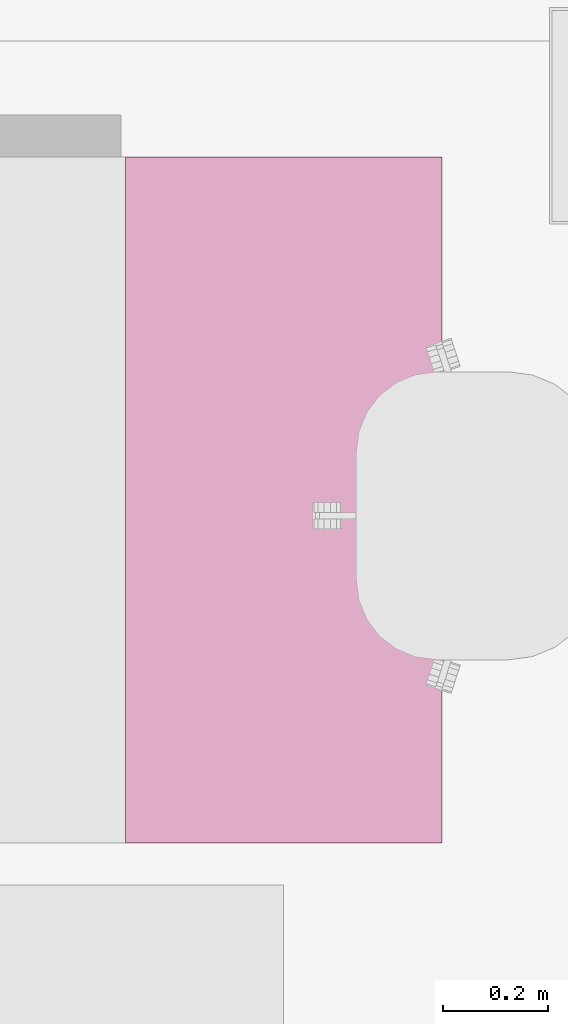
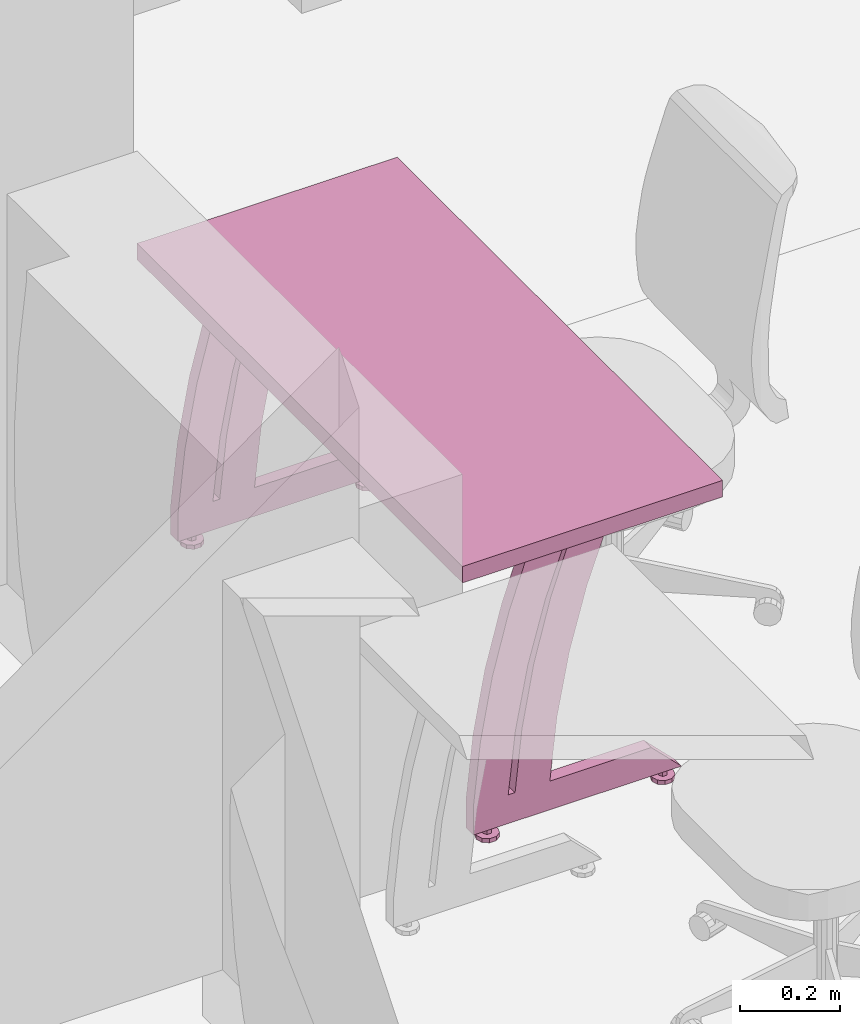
# One storey, part 107 of 128: 1 furnishing.
"""IFC2X3 building model written with IfcOpenShell, lengths in metres."""

from ifc_helpers import new_model, entity, si_unit, converted_unit, derived_unit, direction, frame, origin, place, context, subcontext, project, spatial, faceted_brep, source, transform, mapped, material, type_object, type_shapes, element, save


model = new_model("IFC2X3")

# Units and contexts
model_context = context("Model", 3, precision=1e-05, world=origin(), true_north=direction((6.123031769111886e-17, 1.0)))
body_context = subcontext(model_context, "Body", "Model", "MODEL_VIEW")
ifc_project = project(units=[si_unit("LENGTHUNIT", "METRE"), si_unit("AREAUNIT", "SQUARE_METRE"), converted_unit("PLANEANGLEUNIT", "DEGREE", entity("IfcPlaneAngleMeasure", 0.017453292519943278), si_unit("PLANEANGLEUNIT", "RADIAN"), dimensions=[0, 0, 0, 0, 0, 0, 0]), derived_unit("THERMALTRANSMITTANCEUNIT", [(si_unit("MASSUNIT", "GRAM", prefix="KILO"), 1), (si_unit("THERMODYNAMICTEMPERATUREUNIT", "KELVIN"), -1), (si_unit("TIMEUNIT", "SECOND"), -3)])], contexts=[model_context])

# Site, building, storey
site_placement = place(None, origin())
site = spatial("IfcSite", under=ifc_project, at=site_placement, Name="Default", CompositionType="ELEMENT")
building_placement = place(site_placement, origin())
building = spatial("IfcBuilding", under=site, at=building_placement, CompositionType="ELEMENT")
storey_placement = place(building_placement, origin())
storey = spatial("IfcBuildingStorey", under=building, at=storey_placement, Name="00_RDC CAF", CompositionType="ELEMENT", Elevation=2.4982504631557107e-13)

# Furnishing
ifc_material = material(Name="ARC - Mo - Blanc")
furniture_type = type_object("IfcFurnitureType", Name="Mo_Bureau:Mo_Bureau_1300x600mm", AssemblyPlace="NOTDEFINED", material=ifc_material)
shared_shape = source(origin(), body_context, "Body", "Brep", [
    faceted_brep([(0.05999999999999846, -0.4962325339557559, 0.0), (0.03622358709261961, -0.4885071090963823, 0.0), (0.040764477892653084, -0.48225710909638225, 0.0), (0.04530536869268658, -0.4760071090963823, 0.0), (0.05265268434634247, -0.4736198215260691, 0.0), (0.059999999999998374, -0.4712325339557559, 0.0), (0.06734731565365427, -0.4736198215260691, 0.0), (0.036223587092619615, -0.4962325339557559, 0.0), (0.03622358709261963, -0.5039579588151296, 0.0), (0.04076447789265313, -0.5102079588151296, 0.0), (0.04530536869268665, -0.5164579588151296, 0.0), (0.05265268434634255, -0.5188452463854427, 0.0), (0.05999999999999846, -0.5212325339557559, 0.0), (0.07469463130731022, -0.47600710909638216, 0.0), (0.07923552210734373, -0.48225710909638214, 0.0), (0.08377641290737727, -0.48850710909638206, 0.0), (0.08377641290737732, -0.4962325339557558, 0.0), (0.06734731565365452, -0.5188452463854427, 0.0), (0.07469463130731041, -0.5164579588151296, 0.0), (0.07923552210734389, -0.5102079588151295, 0.0), (0.08377641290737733, -0.5039579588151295, 0.0), (0.05999999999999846, -0.4962325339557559, 0.024999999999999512), (0.05999999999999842, -0.4862325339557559, 0.024999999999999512), (0.051339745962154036, -0.4912325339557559, 0.024999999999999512), (0.05133974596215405, -0.501232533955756, 0.024999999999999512), (0.05999999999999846, -0.506232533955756, 0.024999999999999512), (0.06866025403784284, -0.49123253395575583, 0.024999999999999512), (0.06866025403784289, -0.5012325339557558, 0.024999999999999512), (0.05133974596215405, -0.501232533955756, 0.01000000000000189), (0.05999999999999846, -0.506232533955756, 0.01000000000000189), (0.051339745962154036, -0.4912325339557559, 0.01000000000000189), (0.05999999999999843, -0.4862325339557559, 0.01000000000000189), (0.06866025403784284, -0.49123253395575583, 0.01000000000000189), (0.06866025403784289, -0.5012325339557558, 0.01000000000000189), (0.05999999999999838, -0.4712325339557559, 0.01000000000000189), (0.05554606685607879, -0.47267970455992, 0.01000000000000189), (0.05109213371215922, -0.474126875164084, 0.01000000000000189), (0.04530536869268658, -0.4760071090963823, 0.01000000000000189), (0.06734731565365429, -0.4736198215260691, 0.01000000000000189), (0.07469463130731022, -0.47600710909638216, 0.01000000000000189), (0.07923552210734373, -0.48225710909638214, 0.01000000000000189), (0.08377641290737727, -0.48850710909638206, 0.01000000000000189), (0.08377641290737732, -0.4962325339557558, 0.01000000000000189), (0.08377641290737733, -0.5039579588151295, 0.01000000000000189), (0.07923552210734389, -0.5102079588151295, 0.01000000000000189), (0.07469463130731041, -0.5164579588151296, 0.01000000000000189), (0.06890786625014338, -0.5183381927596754, 0.01000000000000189), (0.064453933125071, -0.5197853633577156, 0.01000000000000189), (0.05999999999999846, -0.5212325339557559, 0.01000000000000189), (0.05265268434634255, -0.5188452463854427, 0.01000000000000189), (0.04530536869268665, -0.5164579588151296, 0.01000000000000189), (0.03622358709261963, -0.5039579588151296, 0.01000000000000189), (0.04076447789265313, -0.5102079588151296, 0.01000000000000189), (0.040764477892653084, -0.48225710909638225, 0.01000000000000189), (0.03622358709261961, -0.4885071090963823, 0.01000000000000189), (0.036223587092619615, -0.4962325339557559, 0.01000000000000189)], [[[0, 1, 2]], [[0, 2, 3]], [[0, 3, 4]], [[0, 4, 5]], [[0, 5, 6]], [[0, 7, 1]], [[0, 8, 7]], [[0, 9, 8]], [[0, 10, 9]], [[0, 11, 10]], [[0, 12, 11]], [[0, 6, 13]], [[0, 13, 14]], [[0, 14, 15]], [[0, 15, 16]], [[0, 17, 12]], [[0, 18, 17]], [[0, 19, 18]], [[0, 20, 19]], [[0, 16, 20]], [[21, 22, 23]], [[23, 24, 21]], [[24, 25, 21]], [[21, 26, 22]], [[25, 27, 21]], [[26, 21, 27]], [[25, 24, 28, 29]], [[24, 23, 30, 28]], [[23, 22, 31, 30]], [[22, 26, 32, 31]], [[26, 27, 33, 32]], [[27, 25, 29, 33]], [[31, 34, 35]], [[31, 35, 36]], [[31, 36, 37]], [[31, 37, 30]], [[31, 38, 34]], [[31, 39, 38]], [[32, 39, 31]], [[32, 40, 39]], [[32, 41, 40]], [[32, 42, 41]], [[32, 43, 42]], [[32, 33, 43]], [[33, 44, 43]], [[33, 45, 44]], [[33, 29, 45]], [[29, 46, 45]], [[29, 47, 46]], [[29, 48, 47]], [[29, 49, 48]], [[29, 50, 49]], [[29, 28, 50]], [[30, 51, 28]], [[28, 51, 52]], [[28, 52, 50]], [[30, 37, 53]], [[30, 53, 54]], [[30, 54, 55]], [[30, 55, 51]], [[11, 12, 48, 49, 50, 10]], [[8, 9, 10, 50, 52, 51]], [[7, 8, 51, 55, 54, 1]], [[3, 37, 36, 35, 34, 5, 4]], [[54, 53, 37, 3, 2, 1]], [[6, 5, 34, 38, 39, 13]], [[15, 14, 13, 39, 40, 41]], [[16, 15, 41, 42, 43, 20]], [[18, 45, 46, 47, 48, 12, 17]], [[43, 44, 45, 18, 19, 20]]]),
    faceted_brep([(0.05999999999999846, -0.09132706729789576, 0.0), (0.03622358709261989, -0.0836016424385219, 0.0), (0.04076447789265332, -0.07735164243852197, 0.0), (0.04530536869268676, -0.07110164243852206, 0.0), (0.05265268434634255, -0.0687143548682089, 0.0), (0.059999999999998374, -0.06632706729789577, 0.0), (0.06734731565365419, -0.06871435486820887, 0.0), (0.0362235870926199, -0.0913270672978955, 0.0), (0.03622358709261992, -0.09905249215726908, 0.0), (0.04076447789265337, -0.105302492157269, 0.0), (0.045305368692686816, -0.11155249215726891, 0.0), (0.05265268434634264, -0.11393977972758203, 0.0), (0.05999999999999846, -0.11632706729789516, 0.0), (0.07469463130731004, -0.07110164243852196, 0.0), (0.0792355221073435, -0.07735164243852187, 0.0), (0.08377641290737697, -0.08360164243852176, 0.0), (0.08377641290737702, -0.09132706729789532, 0.0), (0.06734731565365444, -0.11393977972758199, 0.0), (0.07469463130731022, -0.11155249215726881, 0.0), (0.07923552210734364, -0.10530249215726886, 0.0), (0.08377641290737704, -0.09905249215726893, 0.0), (0.05999999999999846, -0.09132706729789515, 0.024999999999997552), (0.05999999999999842, -0.08132706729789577, 0.024999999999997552), (0.05133974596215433, -0.08632706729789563, 0.024999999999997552), (0.05133974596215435, -0.09632706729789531, 0.024999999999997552), (0.05999999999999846, -0.10132706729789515, 0.024999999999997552), (0.06866025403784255, -0.08632706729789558, 0.024999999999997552), (0.06866025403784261, -0.09632706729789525, 0.024999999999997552), (0.05133974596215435, -0.09632706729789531, 0.009999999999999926), (0.05999999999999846, -0.10132706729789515, 0.009999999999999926), (0.05133974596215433, -0.08632706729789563, 0.009999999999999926), (0.05999999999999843, -0.08132706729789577, 0.009999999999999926), (0.06866025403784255, -0.08632706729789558, 0.009999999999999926), (0.06866025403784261, -0.09632706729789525, 0.009999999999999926), (0.059999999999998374, -0.06632706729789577, 0.009999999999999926), (0.05554606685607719, -0.06777423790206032, 0.009999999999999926), (0.051092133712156, -0.06922140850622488, 0.009999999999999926), (0.04530536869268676, -0.07110164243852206, 0.009999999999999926), (0.0673473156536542, -0.06871435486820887, 0.009999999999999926), (0.07469463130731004, -0.07110164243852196, 0.009999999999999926), (0.0792355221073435, -0.07735164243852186, 0.009999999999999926), (0.08377641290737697, -0.08360164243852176, 0.009999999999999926), (0.08377641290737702, -0.09132706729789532, 0.009999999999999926), (0.08377641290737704, -0.09905249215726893, 0.009999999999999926), (0.07923552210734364, -0.10530249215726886, 0.009999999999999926), (0.07469463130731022, -0.11155249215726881, 0.009999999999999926), (0.0689078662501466, -0.11343272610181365, 0.009999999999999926), (0.06445393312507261, -0.11487989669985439, 0.009999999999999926), (0.05999999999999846, -0.11632706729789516, 0.009999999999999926), (0.05265268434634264, -0.11393977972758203, 0.009999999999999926), (0.045305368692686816, -0.11155249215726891, 0.009999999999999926), (0.03622358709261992, -0.09905249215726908, 0.009999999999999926), (0.04076447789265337, -0.105302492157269, 0.009999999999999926), (0.04076447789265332, -0.07735164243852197, 0.009999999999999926), (0.03622358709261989, -0.0836016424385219, 0.009999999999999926), (0.0362235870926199, -0.0913270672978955, 0.009999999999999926)], [[[0, 1, 2]], [[0, 2, 3]], [[0, 3, 4]], [[0, 4, 5]], [[0, 5, 6]], [[0, 7, 1]], [[0, 8, 7]], [[0, 9, 8]], [[0, 10, 9]], [[0, 11, 10]], [[0, 12, 11]], [[0, 6, 13]], [[0, 13, 14]], [[0, 14, 15]], [[0, 15, 16]], [[0, 17, 12]], [[0, 18, 17]], [[0, 19, 18]], [[0, 20, 19]], [[0, 16, 20]], [[21, 22, 23]], [[23, 24, 21]], [[24, 25, 21]], [[21, 26, 22]], [[25, 27, 21]], [[26, 21, 27]], [[25, 24, 28, 29]], [[24, 23, 30, 28]], [[23, 22, 31, 30]], [[22, 26, 32, 31]], [[26, 27, 33, 32]], [[27, 25, 29, 33]], [[31, 34, 35]], [[31, 35, 36]], [[31, 36, 37]], [[31, 37, 30]], [[31, 38, 34]], [[31, 39, 38]], [[32, 39, 31]], [[32, 40, 39]], [[32, 41, 40]], [[32, 42, 41]], [[32, 43, 42]], [[32, 33, 43]], [[33, 44, 43]], [[33, 45, 44]], [[33, 29, 45]], [[29, 46, 45]], [[29, 47, 46]], [[29, 48, 47]], [[29, 49, 48]], [[29, 50, 49]], [[29, 28, 50]], [[30, 51, 28]], [[28, 51, 52]], [[28, 52, 50]], [[30, 37, 53]], [[30, 53, 54]], [[30, 54, 55]], [[30, 55, 51]], [[11, 12, 48, 49, 50, 10]], [[8, 9, 10, 50, 52, 51]], [[7, 8, 51, 55, 54, 1]], [[3, 37, 36, 35, 34, 5, 4]], [[54, 53, 37, 3, 2, 1]], [[6, 5, 34, 38, 39, 13]], [[15, 14, 13, 39, 40, 41]], [[16, 15, 41, 42, 43, 20]], [[18, 45, 46, 47, 48, 12, 17]], [[43, 44, 45, 18, 19, 20]]]),
    faceted_brep([(0.04499999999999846, -0.22742160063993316, 0.09499999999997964), (0.04499999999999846, -0.24409269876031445, 0.2461411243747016), (0.04499999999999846, -0.2727144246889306, 0.39548087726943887), (0.04499999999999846, -0.3131059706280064, 0.5420758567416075), (0.04499999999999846, -0.36501217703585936, 0.6849999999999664), (0.04499999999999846, -0.27887211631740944, 0.6849999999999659), (0.04499999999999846, -0.22919246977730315, 0.5416912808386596), (0.04499999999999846, -0.19055436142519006, 0.3950196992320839), (0.04499999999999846, -0.16318154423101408, 0.24583462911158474), (0.04499999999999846, -0.14723253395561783, 0.09499999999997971), (0.07499999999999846, -0.3650121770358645, 0.6849999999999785), (0.07499999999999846, -0.3131059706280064, 0.5420758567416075), (0.07499999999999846, -0.2727144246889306, 0.39548087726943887), (0.07499999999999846, -0.24409269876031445, 0.2461411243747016), (0.07499999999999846, -0.2274216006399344, 0.09499999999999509), (0.07499999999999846, -0.14723253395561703, 0.09499999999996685), (0.07499999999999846, -0.16318154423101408, 0.24583462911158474), (0.07499999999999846, -0.19055436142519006, 0.3950196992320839), (0.07499999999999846, -0.22919246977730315, 0.5416912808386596), (0.07499999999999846, -0.2788721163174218, 0.6849999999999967)], [[[0, 1, 2, 3, 4, 5, 6, 7, 8, 9]], [[10, 11, 12, 13, 14, 15, 16, 17, 18, 19]], [[10, 19, 5, 4]], [[3, 11, 10, 4]], [[2, 12, 11, 3]], [[0, 14, 13, 1]], [[12, 2, 1, 13]], [[15, 14, 0, 9]], [[8, 7, 17, 16]], [[15, 9, 8, 16]], [[6, 5, 19, 18]], [[6, 18, 17, 7]]]),
    faceted_brep([(0.04499999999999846, -0.13142160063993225, 0.0949999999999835), (0.04499999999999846, -0.14809269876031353, 0.24614112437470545), (0.04499999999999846, -0.1767144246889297, 0.39548087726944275), (0.04499999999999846, -0.21710597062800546, 0.5420758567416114), (0.04499999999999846, -0.26901217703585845, 0.6849999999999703), (0.04499999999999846, -0.1828721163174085, 0.6849999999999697), (0.04499999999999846, -0.13319246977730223, 0.5416912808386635), (0.04499999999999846, -0.09455436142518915, 0.39501969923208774), (0.04499999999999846, -0.06718154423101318, 0.2458346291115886), (0.04499999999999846, -0.05123253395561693, 0.09499999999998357), (0.07499999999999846, -0.2690121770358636, 0.6849999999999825), (0.07499999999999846, -0.21710597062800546, 0.5420758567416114), (0.07499999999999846, -0.1767144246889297, 0.39548087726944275), (0.07499999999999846, -0.14809269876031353, 0.24614112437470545), (0.07499999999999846, -0.1314216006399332, 0.09499999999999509), (0.07499999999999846, -0.05123253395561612, 0.0949999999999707), (0.07499999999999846, -0.06718154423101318, 0.2458346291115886), (0.07499999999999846, -0.09455436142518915, 0.39501969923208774), (0.07499999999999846, -0.13319246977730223, 0.5416912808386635), (0.07499999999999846, -0.18287211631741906, 0.684999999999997)], [[[0, 1, 2, 3, 4, 5, 6, 7, 8, 9]], [[10, 11, 12, 13, 14, 15, 16, 17, 18, 19]], [[10, 19, 5, 4]], [[3, 11, 10, 4]], [[2, 12, 11, 3]], [[0, 14, 13, 1]], [[12, 2, 1, 13]], [[15, 14, 0, 9]], [[8, 7, 17, 16]], [[15, 9, 8, 16]], [[6, 5, 19, 18]], [[6, 18, 17, 7]]]),
    faceted_brep([(0.04499999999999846, -0.05123253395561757, 0.0249999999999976), (0.04499999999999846, -0.5312325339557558, 0.0249999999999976), (0.04499999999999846, -0.46123253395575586, 0.09499999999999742), (0.04499999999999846, -0.05123253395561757, 0.09499999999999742), (0.07499999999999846, -0.05123253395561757, 0.0249999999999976), (0.07499999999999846, -0.05123253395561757, 0.09499999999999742), (0.07499999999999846, -0.46123253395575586, 0.09499999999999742), (0.07499999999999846, -0.5312325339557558, 0.0249999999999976)], [[[0, 1, 2, 3]], [[4, 5, 6, 7]], [[5, 4, 0, 3]], [[6, 5, 3, 2]], [[4, 7, 1, 0]], [[7, 6, 2, 1]]]),
    faceted_brep([(1.2399999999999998, -0.49623253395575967, 0.0), (1.2162235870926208, -0.48850710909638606, 0.0), (1.2207644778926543, -0.4822571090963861, 0.0), (1.2253053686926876, -0.47600710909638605, 0.0), (1.2326526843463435, -0.47361982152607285, 0.0), (1.2399999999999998, -0.4712325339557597, 0.0), (1.2473473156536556, -0.47361982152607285, 0.0), (1.2162235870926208, -0.49623253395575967, 0.0), (1.2162235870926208, -0.5039579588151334, 0.0), (1.2207644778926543, -0.5102079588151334, 0.0), (1.225305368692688, -0.5164579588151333, 0.0), (1.232652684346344, -0.5188452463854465, 0.0), (1.2399999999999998, -0.5212325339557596, 0.0), (1.2546946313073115, -0.47600710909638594, 0.0), (1.259235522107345, -0.4822571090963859, 0.0), (1.2637764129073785, -0.48850710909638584, 0.0), (1.2637764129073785, -0.49623253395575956, 0.0), (1.2473473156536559, -0.5188452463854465, 0.0), (1.2546946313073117, -0.5164579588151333, 0.0), (1.259235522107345, -0.5102079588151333, 0.0), (1.2637764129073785, -0.5039579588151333, 0.0), (1.2399999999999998, -0.49623253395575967, 0.024999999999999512), (1.2399999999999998, -0.48623253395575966, 0.024999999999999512), (1.2313397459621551, -0.49123253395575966, 0.024999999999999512), (1.2313397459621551, -0.5012325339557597, 0.024999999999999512), (1.2399999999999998, -0.5062325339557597, 0.024999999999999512), (1.2486602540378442, -0.4912325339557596, 0.024999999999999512), (1.2486602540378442, -0.5012325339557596, 0.024999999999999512), (1.2313397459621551, -0.5012325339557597, 0.01000000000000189), (1.2399999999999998, -0.5062325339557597, 0.01000000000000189), (1.2313397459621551, -0.49123253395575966, 0.01000000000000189), (1.2399999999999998, -0.48623253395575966, 0.01000000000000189), (1.2486602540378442, -0.4912325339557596, 0.01000000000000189), (1.2486602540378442, -0.5012325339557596, 0.01000000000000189), (1.2399999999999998, -0.4712325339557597, 0.01000000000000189), (1.2355460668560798, -0.47267970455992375, 0.01000000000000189), (1.2310921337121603, -0.4741268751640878, 0.01000000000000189), (1.2253053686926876, -0.47600710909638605, 0.01000000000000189), (1.2473473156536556, -0.47361982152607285, 0.01000000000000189), (1.2546946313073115, -0.47600710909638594, 0.01000000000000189), (1.259235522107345, -0.4822571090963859, 0.01000000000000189), (1.2637764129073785, -0.48850710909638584, 0.01000000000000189), (1.2637764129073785, -0.49623253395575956, 0.01000000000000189), (1.2637764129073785, -0.5039579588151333, 0.01000000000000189), (1.259235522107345, -0.5102079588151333, 0.01000000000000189), (1.2546946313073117, -0.5164579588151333, 0.01000000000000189), (1.2489078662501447, -0.5183381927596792, 0.01000000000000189), (1.2444539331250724, -0.5197853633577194, 0.01000000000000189), (1.2399999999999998, -0.5212325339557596, 0.01000000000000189), (1.232652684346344, -0.5188452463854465, 0.01000000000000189), (1.225305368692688, -0.5164579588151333, 0.01000000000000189), (1.2162235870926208, -0.5039579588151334, 0.01000000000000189), (1.2207644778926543, -0.5102079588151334, 0.01000000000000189), (1.2207644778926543, -0.4822571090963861, 0.01000000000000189), (1.2162235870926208, -0.48850710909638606, 0.01000000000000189), (1.2162235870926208, -0.49623253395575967, 0.01000000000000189)], [[[0, 1, 2]], [[0, 2, 3]], [[0, 3, 4]], [[0, 4, 5]], [[0, 5, 6]], [[0, 7, 1]], [[0, 8, 7]], [[0, 9, 8]], [[0, 10, 9]], [[0, 11, 10]], [[0, 12, 11]], [[0, 6, 13]], [[0, 13, 14]], [[0, 14, 15]], [[0, 15, 16]], [[0, 17, 12]], [[0, 18, 17]], [[0, 19, 18]], [[0, 20, 19]], [[0, 16, 20]], [[21, 22, 23]], [[23, 24, 21]], [[24, 25, 21]], [[21, 26, 22]], [[25, 27, 21]], [[26, 21, 27]], [[25, 24, 28, 29]], [[24, 23, 30, 28]], [[23, 22, 31, 30]], [[22, 26, 32, 31]], [[26, 27, 33, 32]], [[27, 25, 29, 33]], [[31, 34, 35]], [[31, 35, 36]], [[31, 36, 37]], [[31, 37, 30]], [[31, 38, 34]], [[31, 39, 38]], [[32, 39, 31]], [[32, 40, 39]], [[32, 41, 40]], [[32, 42, 41]], [[32, 43, 42]], [[32, 33, 43]], [[33, 44, 43]], [[33, 45, 44]], [[33, 29, 45]], [[29, 46, 45]], [[29, 47, 46]], [[29, 48, 47]], [[29, 49, 48]], [[29, 50, 49]], [[29, 28, 50]], [[30, 51, 28]], [[28, 51, 52]], [[28, 52, 50]], [[30, 37, 53]], [[30, 53, 54]], [[30, 54, 55]], [[30, 55, 51]], [[11, 12, 48, 49, 50, 10]], [[8, 9, 10, 50, 52, 51]], [[7, 8, 51, 55, 54, 1]], [[3, 37, 36, 35, 34, 5, 4]], [[54, 53, 37, 3, 2, 1]], [[6, 5, 34, 38, 39, 13]], [[15, 14, 13, 39, 40, 41]], [[16, 15, 41, 42, 43, 20]], [[18, 45, 46, 47, 48, 12, 17]], [[43, 44, 45, 18, 19, 20]]]),
    faceted_brep([(1.2399999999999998, -0.09132706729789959, 0.0), (1.2162235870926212, -0.08360164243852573, 0.0), (1.2207644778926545, -0.0773516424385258, 0.0), (1.225305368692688, -0.07110164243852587, 0.0), (1.2326526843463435, -0.06871435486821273, 0.0), (1.2399999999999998, -0.06632706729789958, 0.0), (1.2473473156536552, -0.06871435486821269, 0.0), (1.2162235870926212, -0.09132706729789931, 0.0), (1.2162235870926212, -0.09905249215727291, 0.0), (1.2207644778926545, -0.10530249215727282, 0.0), (1.225305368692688, -0.11155249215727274, 0.0), (1.232652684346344, -0.11393977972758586, 0.0), (1.2399999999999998, -0.11632706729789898, 0.0), (1.254694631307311, -0.07110164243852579, 0.0), (1.2592355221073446, -0.0773516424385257, 0.0), (1.263776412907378, -0.0836016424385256, 0.0), (1.263776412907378, -0.09132706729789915, 0.0), (1.2473473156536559, -0.1139397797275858, 0.0), (1.2546946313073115, -0.11155249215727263, 0.0), (1.2592355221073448, -0.10530249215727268, 0.0), (1.263776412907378, -0.09905249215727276, 0.0), (1.2399999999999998, -0.09132706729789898, 0.024999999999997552), (1.2399999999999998, -0.0813270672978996, 0.024999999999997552), (1.2313397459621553, -0.08632706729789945, 0.024999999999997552), (1.2313397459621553, -0.09632706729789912, 0.024999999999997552), (1.2399999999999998, -0.10132706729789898, 0.024999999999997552), (1.2486602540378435, -0.0863270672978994, 0.024999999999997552), (1.248660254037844, -0.09632706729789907, 0.024999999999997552), (1.2313397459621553, -0.09632706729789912, 0.009999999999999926), (1.2399999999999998, -0.10132706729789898, 0.009999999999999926), (1.2313397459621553, -0.08632706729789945, 0.009999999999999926), (1.2399999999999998, -0.0813270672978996, 0.009999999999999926), (1.2486602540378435, -0.0863270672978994, 0.009999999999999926), (1.248660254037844, -0.09632706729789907, 0.009999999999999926), (1.2399999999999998, -0.06632706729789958, 0.009999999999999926), (1.2355460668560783, -0.06777423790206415, 0.009999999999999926), (1.2310921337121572, -0.0692214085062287, 0.009999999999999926), (1.225305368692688, -0.07110164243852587, 0.009999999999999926), (1.2473473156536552, -0.06871435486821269, 0.009999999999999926), (1.254694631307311, -0.07110164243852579, 0.009999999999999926), (1.2592355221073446, -0.07735164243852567, 0.009999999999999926), (1.263776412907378, -0.0836016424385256, 0.009999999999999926), (1.263776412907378, -0.09132706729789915, 0.009999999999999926), (1.263776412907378, -0.09905249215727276, 0.009999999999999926), (1.2592355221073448, -0.10530249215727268, 0.009999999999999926), (1.2546946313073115, -0.11155249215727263, 0.009999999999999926), (1.2489078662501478, -0.1134327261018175, 0.009999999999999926), (1.2444539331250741, -0.11487989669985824, 0.009999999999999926), (1.2399999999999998, -0.11632706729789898, 0.009999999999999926), (1.232652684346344, -0.11393977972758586, 0.009999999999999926), (1.225305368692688, -0.11155249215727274, 0.009999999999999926), (1.2162235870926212, -0.09905249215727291, 0.009999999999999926), (1.2207644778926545, -0.10530249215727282, 0.009999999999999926), (1.2207644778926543, -0.0773516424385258, 0.009999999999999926), (1.2162235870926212, -0.08360164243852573, 0.009999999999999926), (1.2162235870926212, -0.09132706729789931, 0.009999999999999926)], [[[0, 1, 2]], [[0, 2, 3]], [[0, 3, 4]], [[0, 4, 5]], [[0, 5, 6]], [[0, 7, 1]], [[0, 8, 7]], [[0, 9, 8]], [[0, 10, 9]], [[0, 11, 10]], [[0, 12, 11]], [[0, 6, 13]], [[0, 13, 14]], [[0, 14, 15]], [[0, 15, 16]], [[0, 17, 12]], [[0, 18, 17]], [[0, 19, 18]], [[0, 20, 19]], [[0, 16, 20]], [[21, 22, 23]], [[23, 24, 21]], [[24, 25, 21]], [[21, 26, 22]], [[25, 27, 21]], [[26, 21, 27]], [[25, 24, 28, 29]], [[24, 23, 30, 28]], [[23, 22, 31, 30]], [[22, 26, 32, 31]], [[26, 27, 33, 32]], [[27, 25, 29, 33]], [[31, 34, 35]], [[31, 35, 36]], [[31, 36, 37]], [[31, 37, 30]], [[31, 38, 34]], [[31, 39, 38]], [[32, 39, 31]], [[32, 40, 39]], [[32, 41, 40]], [[32, 42, 41]], [[32, 43, 42]], [[32, 33, 43]], [[33, 44, 43]], [[33, 45, 44]], [[33, 29, 45]], [[29, 46, 45]], [[29, 47, 46]], [[29, 48, 47]], [[29, 49, 48]], [[29, 50, 49]], [[29, 28, 50]], [[30, 51, 28]], [[28, 51, 52]], [[28, 52, 50]], [[30, 37, 53]], [[30, 53, 54]], [[30, 54, 55]], [[30, 55, 51]], [[11, 12, 48, 49, 50, 10]], [[8, 9, 10, 50, 52, 51]], [[7, 8, 51, 55, 54, 1]], [[3, 37, 36, 35, 34, 5, 4]], [[54, 53, 37, 3, 2, 1]], [[6, 5, 34, 38, 39, 13]], [[15, 14, 13, 39, 40, 41]], [[16, 15, 41, 42, 43, 20]], [[18, 45, 46, 47, 48, 12, 17]], [[43, 44, 45, 18, 19, 20]]]),
    faceted_brep([(1.2249999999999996, -0.22742160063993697, 0.09499999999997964), (1.2249999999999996, -0.24409269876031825, 0.2461411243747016), (1.2249999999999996, -0.2727144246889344, 0.39548087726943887), (1.2249999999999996, -0.31310597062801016, 0.5420758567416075), (1.2249999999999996, -0.36501217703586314, 0.6849999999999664), (1.2249999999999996, -0.2788721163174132, 0.6849999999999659), (1.2249999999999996, -0.22919246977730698, 0.5416912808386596), (1.2249999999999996, -0.19055436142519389, 0.3950196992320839), (1.2249999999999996, -0.1631815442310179, 0.24583462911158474), (1.2249999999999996, -0.14723253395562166, 0.09499999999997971), (1.2549999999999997, -0.3650121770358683, 0.6849999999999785), (1.2549999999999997, -0.31310597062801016, 0.5420758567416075), (1.2549999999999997, -0.2727144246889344, 0.39548087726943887), (1.2549999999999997, -0.24409269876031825, 0.2461411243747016), (1.2549999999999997, -0.22742160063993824, 0.09499999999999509), (1.2549999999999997, -0.14723253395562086, 0.09499999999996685), (1.2549999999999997, -0.1631815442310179, 0.24583462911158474), (1.2549999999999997, -0.19055436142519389, 0.3950196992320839), (1.2549999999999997, -0.22919246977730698, 0.5416912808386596), (1.2549999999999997, -0.2788721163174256, 0.6849999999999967)], [[[0, 1, 2, 3, 4, 5, 6, 7, 8, 9]], [[10, 11, 12, 13, 14, 15, 16, 17, 18, 19]], [[10, 19, 5, 4]], [[3, 11, 10, 4]], [[2, 12, 11, 3]], [[0, 14, 13, 1]], [[12, 2, 1, 13]], [[15, 14, 0, 9]], [[8, 7, 17, 16]], [[15, 9, 8, 16]], [[6, 5, 19, 18]], [[6, 18, 17, 7]]]),
    faceted_brep([(1.2249999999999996, -0.13142160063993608, 0.0949999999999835), (1.2249999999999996, -0.14809269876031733, 0.24614112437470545), (1.2249999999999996, -0.1767144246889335, 0.39548087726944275), (1.2249999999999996, -0.2171059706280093, 0.5420758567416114), (1.2249999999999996, -0.2690121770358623, 0.6849999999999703), (1.2249999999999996, -0.18287211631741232, 0.6849999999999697), (1.2249999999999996, -0.13319246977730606, 0.5416912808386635), (1.2249999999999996, -0.09455436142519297, 0.39501969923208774), (1.2249999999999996, -0.06718154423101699, 0.2458346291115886), (1.2249999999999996, -0.05123253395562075, 0.09499999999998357), (1.2549999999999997, -0.2690121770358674, 0.6849999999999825), (1.2549999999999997, -0.2171059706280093, 0.5420758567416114), (1.2549999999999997, -0.1767144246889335, 0.39548087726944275), (1.2549999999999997, -0.14809269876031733, 0.24614112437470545), (1.2549999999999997, -0.13142160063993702, 0.09499999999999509), (1.2549999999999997, -0.05123253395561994, 0.0949999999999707), (1.2549999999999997, -0.06718154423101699, 0.2458346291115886), (1.2549999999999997, -0.09455436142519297, 0.39501969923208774), (1.2549999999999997, -0.13319246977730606, 0.5416912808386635), (1.2549999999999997, -0.18287211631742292, 0.684999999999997)], [[[0, 1, 2, 3, 4, 5, 6, 7, 8, 9]], [[10, 11, 12, 13, 14, 15, 16, 17, 18, 19]], [[10, 19, 5, 4]], [[3, 11, 10, 4]], [[2, 12, 11, 3]], [[0, 14, 13, 1]], [[12, 2, 1, 13]], [[15, 14, 0, 9]], [[8, 7, 17, 16]], [[15, 9, 8, 16]], [[6, 5, 19, 18]], [[6, 18, 17, 7]]]),
    faceted_brep([(1.2249999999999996, -0.05123253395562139, 0.0249999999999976), (1.2249999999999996, -0.5312325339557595, 0.0249999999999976), (1.2249999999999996, -0.46123253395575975, 0.09499999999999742), (1.2249999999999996, -0.05123253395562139, 0.09499999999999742), (1.2549999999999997, -0.05123253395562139, 0.0249999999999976), (1.2549999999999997, -0.05123253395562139, 0.09499999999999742), (1.2549999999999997, -0.46123253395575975, 0.09499999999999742), (1.2549999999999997, -0.5312325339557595, 0.0249999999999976)], [[[0, 1, 2, 3]], [[4, 5, 6, 7]], [[5, 4, 0, 3]], [[6, 5, 3, 2]], [[4, 7, 1, 0]], [[7, 6, 2, 1]]]),
    faceted_brep([(0.0, -0.5999999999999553, 0.685), (0.0, 0.0, 0.685), (1.2999999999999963, 0.0, 0.6849999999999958), (1.2999999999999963, -0.5999999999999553, 0.6849999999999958), (0.0, -0.5999999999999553, 0.7250000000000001), (1.2999999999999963, -0.5999999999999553, 0.7249999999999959), (1.2999999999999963, 0.0, 0.7249999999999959), (0.0, 0.0, 0.7250000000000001)], [[[0, 1, 2, 3]], [[4, 5, 6, 7]], [[5, 4, 0, 3]], [[6, 5, 3, 2]], [[7, 6, 2, 1]], [[4, 7, 1, 0]]]),
])
type_shapes(furniture_type, [shared_shape])
furnishing_placement = place(storey_placement, frame((20.295521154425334, 141.01182648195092, 0.15999999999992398), z_axis=(0.0, 0.0, 1.0), x_axis=(0.0, 1.0, 0.0)))
element("IfcFurnishingElement", 1, at=furnishing_placement, inside=storey, type_object=furniture_type, material=ifc_material, Name="Mo_Bureau:Mo_Bureau_1300x600mm", ObjectType="Mo_Bureau:Mo_Bureau_1300x600mm", context=body_context, shape_type="MappedRepresentation", body=[
    mapped(shared_shape, transform((0.0, 0.0, 0.0), scale=1.0)),
])

save(model, "model.ifc")
